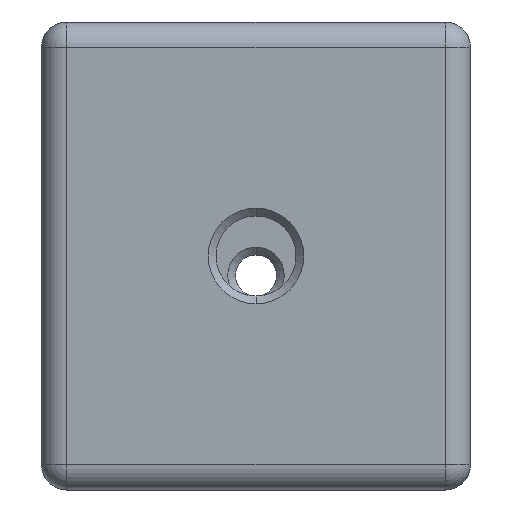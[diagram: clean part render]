
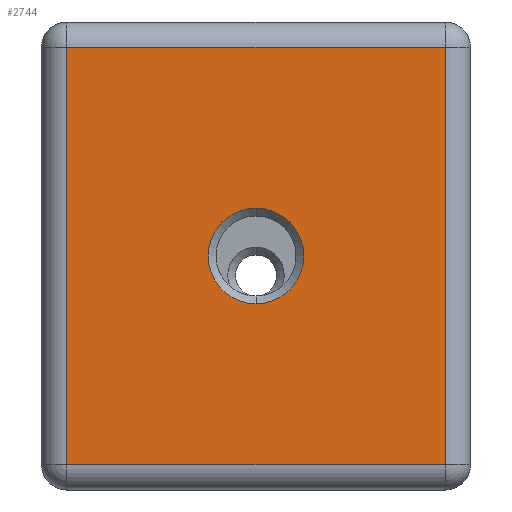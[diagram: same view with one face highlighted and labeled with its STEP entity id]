
A CAD part, front view. The second image highlights one B-rep face of the part: STEP entity #2744.
In plain terms, the highlighted planar face has unit normal (0, -1, 0).
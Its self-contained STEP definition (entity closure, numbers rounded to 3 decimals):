
#25 = DIRECTION ( 'NONE',  ( 0., 0., 1. ) ) ;
#26 = DIRECTION ( 'NONE',  ( 0., 1., 0. ) ) ;
#27 = CARTESIAN_POINT ( 'NONE',  ( 55., 0., 60. ) ) ;
#28 = PLANE ( 'NONE',  #2569 ) ;
#1095 = VERTEX_POINT ( 'NONE', #1251 ) ;
#1097 = VERTEX_POINT ( 'NONE', #1253 ) ;
#1098 = VERTEX_POINT ( 'NONE', #1254 ) ;
#1102 = VERTEX_POINT ( 'NONE', #1258 ) ;
#1103 = VERTEX_POINT ( 'NONE', #1259 ) ;
#1110 = VERTEX_POINT ( 'NONE', #1266 ) ;
#1251 = CARTESIAN_POINT ( 'NONE',  ( -48.5, 0., -53.5 ) ) ;
#1253 = CARTESIAN_POINT ( 'NONE',  ( 48.5, 0., 53.5 ) ) ;
#1254 = CARTESIAN_POINT ( 'NONE',  ( -48.5, 0., 53.5 ) ) ;
#1258 = CARTESIAN_POINT ( 'NONE',  ( 0., 0., 12.25 ) ) ;
#1259 = CARTESIAN_POINT ( 'NONE',  ( 48.5, 0., -53.5 ) ) ;
#1266 = CARTESIAN_POINT ( 'NONE',  ( 0., 0., -12.25 ) ) ;
#1837 = CARTESIAN_POINT ( 'NONE',  ( 55., 0., 53.5 ) ) ;
#1838 = DIRECTION ( 'NONE',  ( -1., 0., 0. ) ) ;
#1839 = CARTESIAN_POINT ( 'NONE',  ( 48.5, 0., 60. ) ) ;
#1840 = DIRECTION ( 'NONE',  ( 0., 0., 1. ) ) ;
#1841 = CARTESIAN_POINT ( 'NONE',  ( 55., 0., -53.5 ) ) ;
#1842 = DIRECTION ( 'NONE',  ( 1., 0., 0. ) ) ;
#1843 = CARTESIAN_POINT ( 'NONE',  ( -48.5, 0., 60. ) ) ;
#1844 = DIRECTION ( 'NONE',  ( 0., 0., -1. ) ) ;
#1845 = CARTESIAN_POINT ( 'NONE',  ( 0., 0., 0. ) ) ;
#1846 = DIRECTION ( 'NONE',  ( 0., 1., 0. ) ) ;
#1847 = DIRECTION ( 'NONE',  ( 0., 0., 1. ) ) ;
#1880 = CARTESIAN_POINT ( 'NONE',  ( 0., 0., 0. ) ) ;
#1881 = DIRECTION ( 'NONE',  ( 0., 1., 0. ) ) ;
#1882 = DIRECTION ( 'NONE',  ( 0., 0., 1. ) ) ;
#2374 = EDGE_CURVE ( 'NONE', #1097, #1098, #2973, .T. ) ;
#2375 = EDGE_CURVE ( 'NONE', #1103, #1097, #2975, .T. ) ;
#2376 = EDGE_CURVE ( 'NONE', #1095, #1103, #2977, .T. ) ;
#2377 = EDGE_CURVE ( 'NONE', #1098, #1095, #2979, .T. ) ;
#2378 = EDGE_CURVE ( 'NONE', #1102, #1110, #2981, .T. ) ;
#2392 = EDGE_CURVE ( 'NONE', #1110, #1102, #3003, .T. ) ;
#2470 = AXIS2_PLACEMENT_3D ( 'NONE', #1845, #1846, #1847 ) ;
#2477 = AXIS2_PLACEMENT_3D ( 'NONE', #1880, #1881, #1882 ) ;
#2569 = AXIS2_PLACEMENT_3D ( 'NONE', #27, #26, #25 ) ;
#2744 = ADVANCED_FACE ( 'NONE', ( #3145, #3146 ), #28, .F. ) ;
#2789 = ORIENTED_EDGE ( 'NONE', *, *, #2374, .T. ) ;
#2799 = EDGE_LOOP ( 'NONE', ( #2824, #2848 ) ) ;
#2813 = ORIENTED_EDGE ( 'NONE', *, *, #2377, .T. ) ;
#2821 = ORIENTED_EDGE ( 'NONE', *, *, #2376, .T. ) ;
#2824 = ORIENTED_EDGE ( 'NONE', *, *, #2392, .T. ) ;
#2848 = ORIENTED_EDGE ( 'NONE', *, *, #2378, .T. ) ;
#2849 = ORIENTED_EDGE ( 'NONE', *, *, #2375, .T. ) ;
#2865 = EDGE_LOOP ( 'NONE', ( #2813, #2821, #2849, #2789 ) ) ;
#2973 = LINE ( 'NONE', #1837, #2974 ) ;
#2974 = VECTOR ( 'NONE', #1838, 1000. ) ;
#2975 = LINE ( 'NONE', #1839, #2976 ) ;
#2976 = VECTOR ( 'NONE', #1840, 1000. ) ;
#2977 = LINE ( 'NONE', #1841, #2978 ) ;
#2978 = VECTOR ( 'NONE', #1842, 1000. ) ;
#2979 = LINE ( 'NONE', #1843, #2980 ) ;
#2980 = VECTOR ( 'NONE', #1844, 1000. ) ;
#2981 = CIRCLE ( 'NONE', #2470, 12.25 ) ;
#3003 = CIRCLE ( 'NONE', #2477, 12.25 ) ;
#3145 = FACE_BOUND ( 'NONE', #2799, .T. ) ;
#3146 = FACE_OUTER_BOUND ( 'NONE', #2865, .T. ) ;
